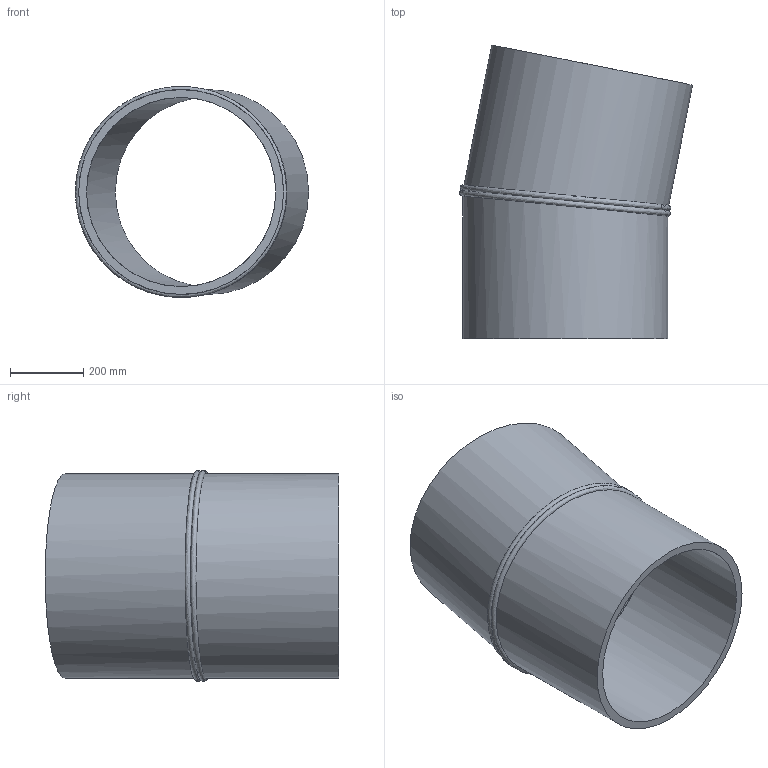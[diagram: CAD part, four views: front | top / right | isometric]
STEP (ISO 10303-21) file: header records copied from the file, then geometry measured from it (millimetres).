
FILE_DESCRIPTION(/* description */ ('Unknown'),/* implementation_level */ '2;1');
FILE_NAME(/* name */ 'Curva 11.25° a settore DE560 SDR26',/* time_stamp */ '2022-07-22T15:42:53+02:00',/* author */ ('Unknown'),/* organization */ ('Unknown'),/* preprocessor_version */ 'ST-DEVELOPER v18.102',/* originating_system */ 'Solid Edge',/* authorisation */ 'Unknown');
FILE_SCHEMA (('AUTOMOTIVE_DESIGN {1 0 10303 214 3 1 1}'));
Length unit declared in the file: millimetre
Products named in the file (2): Curva 11.25° a settore DE560 SDR26; Tubo x Gomito 11.25° DE560 SDR26
Assembly tree (2 placements, depth 2):
  Curva 11.25° a settore DE560 SDR26
    Tubo x Gomito 11.25° DE560 SDR26  x2
Bounding box: 637.24 x 802.53 x 576.45 mm (x, y, z)
Volume: 27699366.6 mm3; surface area: 2738136.4 mm2
Topology: 2 solids, 2 shells, 10 faces, 20 edges, 14 vertices
Faces by surface type: cylinder 4, plane 4, bspline 2
Full cylindrical faces by diameter (mm): 517.2 x2, 560 x2
Entity records: 1289 total; most frequent: CARTESIAN_POINT 1152, DIRECTION 20, ORIENTED_EDGE 10, EDGE_LOOP 10, FACE_BOUND 10, AXIS2_PLACEMENT_3D 10, EDGE_CURVE 5, VERTEX_POINT 5
